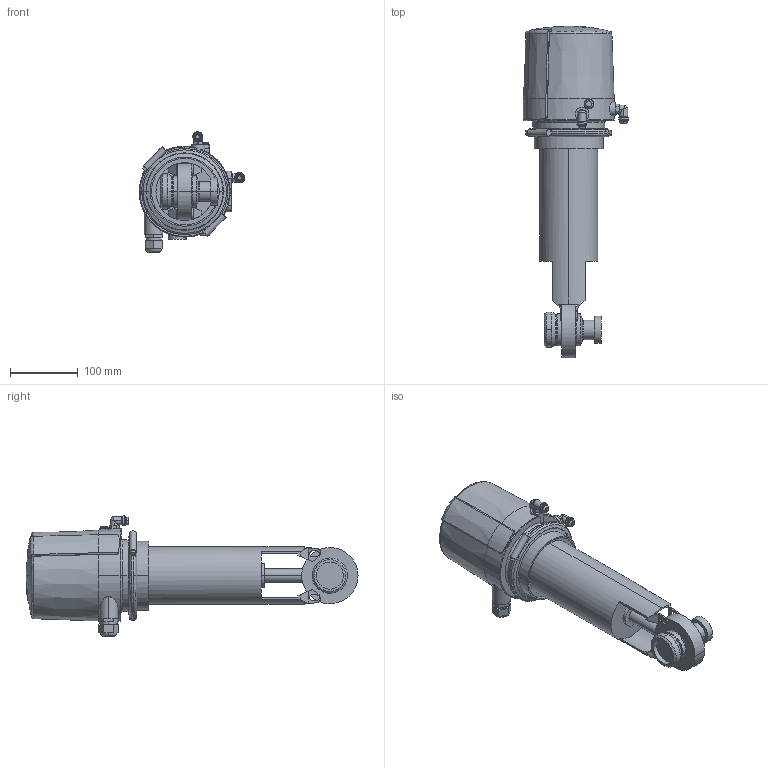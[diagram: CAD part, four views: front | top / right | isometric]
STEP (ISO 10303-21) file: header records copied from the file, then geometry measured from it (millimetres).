
FILE_DESCRIPTION(('Creo Elements/Direct Modeling STEP Export'),'2;1');
FILE_NAME('SV1-25-CU4-1K2G.stp','2013-02-15T12:23:23',(''),(''),'Creo Elements/Direct Modeling STEP processor for AP214 (Solid Model)','Creo Elements/Direct Modeling 17.0D 15-Jul-2011 (C) Parametric Technology GmbH','');
FILE_SCHEMA(('AUTOMOTIVE_DESIGN { 1 0 10303 214 1 1 1 1 }'));
Length unit declared in the file: millimetre
Products named in the file (3): SV1-25-1K2G1; CU41-mit-T-Adapter; SV1-25-CU4-1K2G
Assembly tree (2 placements, depth 2):
  SV1-25-CU4-1K2G
    CU41-mit-T-Adapter
    SV1-25-1K2G1
Bounding box: 155.4 x 489.56 x 177.6 mm (x, y, z)
Volume: 3289577.2 mm3; surface area: 243724.2 mm2
Topology: 2 solids, 8 shells, 460 faces, 1178 edges, 748 vertices
Faces by surface type: plane 210, cylinder 143, torus 47, cone 44, bspline 10, sphere 6
Entity records: 21741 total; most frequent: CARTESIAN_POINT 10430, ORIENTED_EDGE 2368, DIRECTION 2049, EDGE_CURVE 1176, AXIS2_PLACEMENT_3D 781, VERTEX_POINT 748, EDGE_LOOP 510, VECTOR 487
